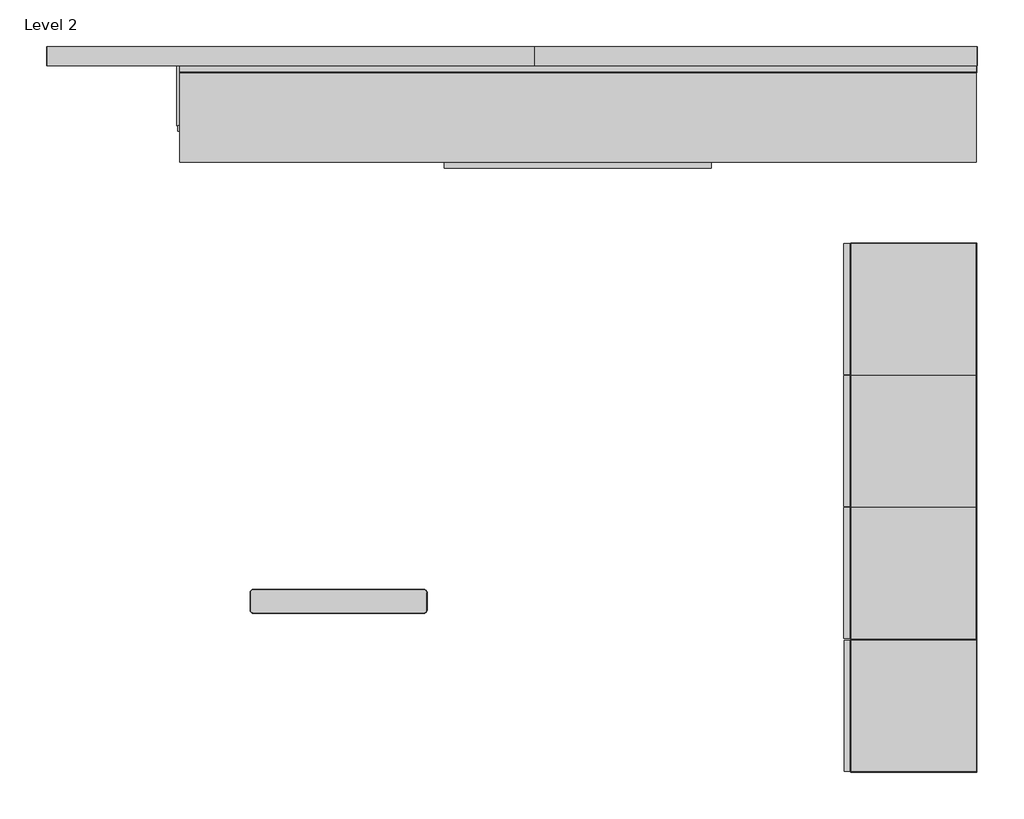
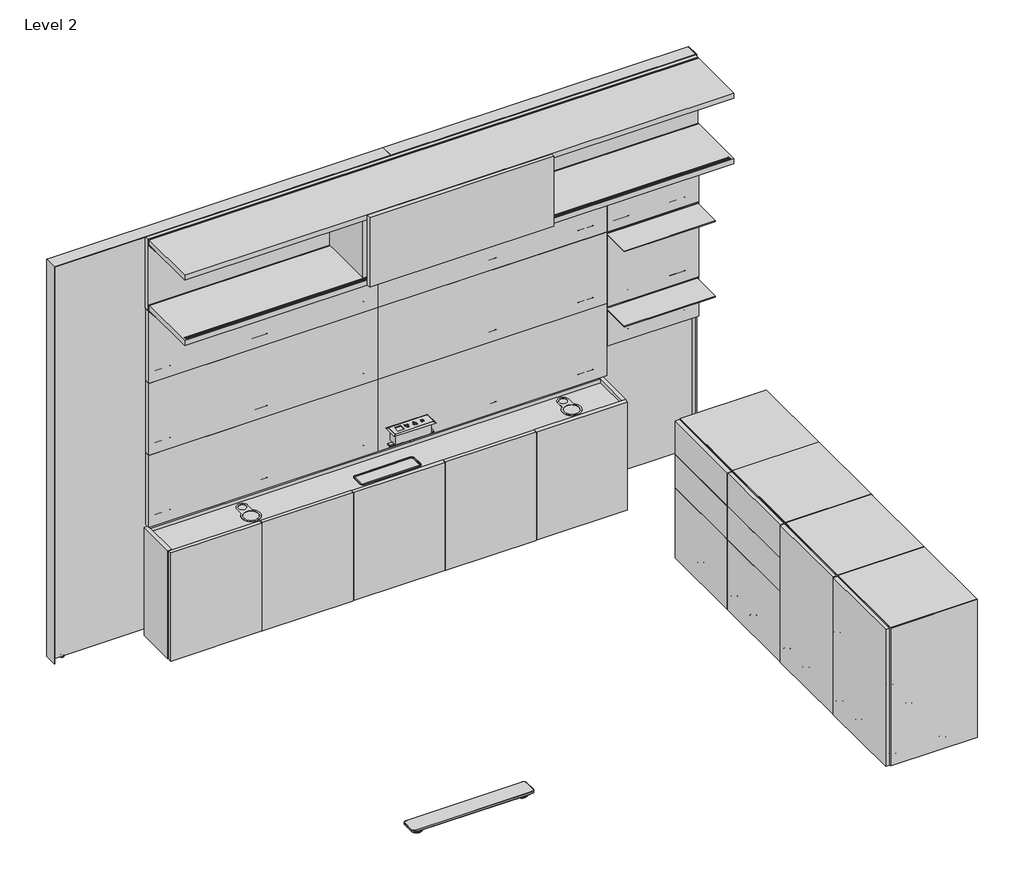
# One storey, incomplete: 26 furniture elements.
"""IFC4 building model written with IfcOpenShell, lengths in millimetres."""

from ifc_helpers import new_model, si_unit, origin, place, context, project, spatial, transform, mapped, element, save
from components import furniture_2c6be22b, furniture_26ee6ef7, furniture_32e424e9, furniture_9a9e18b9, furniture_67171f7c, furniture_72f0afe8, furniture_a181dc65, furniture_463faf28, furniture_ed4ef10b, furniture_85a4afa4, furniture_02ff0113, furniture_eb95eba2, furniture_c91bc20d, in_surface_33791ff7, t_foot_2f0a3af6

model = new_model("IFC4")

# Units and contexts
model_context = context("Model", 3, world=origin())
ifc_project = project(units=[si_unit("LENGTHUNIT", "METRE", prefix="MILLI")], contexts=[model_context])

# Site, building, storey
site = spatial("IfcSite", under=ifc_project)
building = spatial("IfcBuilding", under=site)
storey = spatial("IfcBuildingStorey", under=building, Name="Level 2", Elevation=3048.0)

# Furniture
placement = place(None, origin())
furniture_shape = furniture_2c6be22b(model_context)
element("IfcFurniture", 1, ObjectType="Geiger_GeigerOneCasegoods_Casegoods_AccessoryShelf : 17.875Wx 6.5Dx 0.375H", at=placement, inside=storey, context=model_context, shape_type="MappedRepresentation", body=[
    mapped(furniture_shape, transform((3808.9747955, 3553.4445055, 962.4822), x_axis=(1.0, 0.0, 0.0), y_axis=(0.0, 1.0, 0.0), z_axis=(0.0, 0.0, 1.0))),
])
element("IfcFurniture", 2, ObjectType="Geiger_GeigerOneCasegoods_Casegoods_AccessoryShelf : 17.875Wx 6.5Dx 0.375H", at=placement, inside=storey, context=model_context, shape_type="MappedRepresentation", body=[
    mapped(furniture_shape, transform((3808.9747955, 3553.4445055, 1359.5522485), x_axis=(1.0, 0.0, 0.0), y_axis=(0.0, 1.0, 0.0), z_axis=(0.0, 0.0, 1.0))),
])
furniture_2_shape = furniture_26ee6ef7(model_context)
element("IfcFurniture", 3, ObjectType="Geiger_GeigerOneCasegoods_OverheadStorageDoubleShelfWithSlidingDoor : Veneer Shelves Horizontal Veneer Back 108Wx 14.125Dx 14.875H", at=placement, inside=storey, context=model_context, shape_type="MappedRepresentation", body=[
    mapped(furniture_2_shape, transform((1521.6853277, 3575.628369, 1754.124), x_axis=(1.0, 0.0, 0.0), y_axis=(0.0, 1.0, 0.0), z_axis=(0.0, 0.0, 1.0))),
])
furniture_3_shape = furniture_32e424e9(model_context)
element("IfcFurniture", 4, ObjectType="Geiger_GeigerOneCasegoods_UtilityCabinetForUseWithLDeskAccepts2Legs : Vertical Veneer 90Wx 8.875Dx 22.5H", at=placement, inside=storey, context=model_context, shape_type="MappedRepresentation", body=[
    mapped(furniture_3_shape, transform((1511.5253277, 3562.8705754, 19.05), x_axis=(1.0, 0.0, 0.0), y_axis=(0.0, 1.0, 0.0), z_axis=(0.0, 0.0, 1.0))),
])
furniture_4_shape = furniture_9a9e18b9(model_context)
element("IfcFurniture", 5, ObjectType="Geiger_GeigerOneCasegoods_WallEndTrim : SingleSided 2.625Wx 0.125Dx 82.625H", at=placement, inside=storey, context=model_context, shape_type="MappedRepresentation", body=[
    mapped(furniture_4_shape, transform((4266.0853277, 3595.8705754, 38.1), x_axis=(1.0, 0.0, 0.0), y_axis=(0.0, 1.0, 0.0), z_axis=(0.0, 0.0, 1.0))),
])
element("IfcFurniture", 6, ObjectType="Geiger_GeigerOneCasegoods_WallEndTrim : SingleSided 2.625Wx 0.125Dx 82.625H", at=placement, inside=storey, context=model_context, shape_type="MappedRepresentation", body=[
    mapped(furniture_4_shape, transform((1062.5103277, 3595.8705754, 38.1), x_axis=(1.0, 0.0, 0.0), y_axis=(0.0, 1.0, 0.0), z_axis=(0.0, 0.0, 1.0))),
])
furniture_5_shape = furniture_67171f7c(model_context)
element("IfcFurniture", 7, ObjectType="Geiger_GeigerOneCasegoods_WallFrameStandardApplication : 42Wx1Dx82.5H", at=placement, inside=storey, context=model_context, shape_type="MappedRepresentation", body=[
    mapped(furniture_5_shape, transform((1064.8788498, 3624.4302055, 25.4), x_axis=(1.0, 0.0, 0.0), y_axis=(0.0, 1.0, 0.0), z_axis=(0.0, 0.0, 1.0))),
])
element("IfcFurniture", 8, ObjectType="Geiger_GeigerOneCasegoods_WallFrameStandardApplication : 42Wx1Dx82.5H", at=placement, inside=storey, context=model_context, shape_type="MappedRepresentation", body=[
    mapped(furniture_5_shape, transform((2131.6788498, 3624.4302055, 25.4), x_axis=(1.0, 0.0, 0.0), y_axis=(0.0, 1.0, 0.0), z_axis=(0.0, 0.0, 1.0))),
])
element("IfcFurniture", 9, ObjectType="Geiger_GeigerOneCasegoods_WallFrameStandardApplication : 42Wx1Dx82.5H", at=placement, inside=storey, context=model_context, shape_type="MappedRepresentation", body=[
    mapped(furniture_5_shape, transform((3200.8473719, 3624.4302055, 25.4), x_axis=(1.0, 0.0, 0.0), y_axis=(0.0, 1.0, 0.0), z_axis=(0.0, 0.0, 1.0))),
])
furniture_6_shape = furniture_72f0afe8(model_context)
element("IfcFurniture", 10, ObjectType="Geiger_GeigerOneCasegoods_WallTopTrimSingleSidedWall : 60Wx2.625Dx0.125H", at=placement, inside=storey, context=model_context, shape_type="MappedRepresentation", body=[
    mapped(furniture_6_shape, transform((2742.0853277, 3596.2080754, 2133.5746), x_axis=(1.0, 0.0, 0.0), y_axis=(0.0, 1.0, 0.0), z_axis=(0.0, 0.0, 1.0))),
])
furniture_7_shape = furniture_a181dc65(model_context)
element("IfcFurniture", 11, ObjectType="Geiger_GeigerOneCasegoods_WallTopTrimSingleSidedWall : 66Wx2.625Dx0.125H", at=placement, inside=storey, context=model_context, shape_type="MappedRepresentation", body=[
    mapped(furniture_7_shape, transform((1065.6853277, 3596.2080754, 2133.5746), x_axis=(1.0, 0.0, 0.0), y_axis=(0.0, 1.0, 0.0), z_axis=(0.0, 0.0, 1.0))),
])
furniture_8_shape = furniture_463faf28(model_context)
element("IfcFurniture", 12, ObjectType="Geiger_GeigerOneCasegoods_WallTileAcceptsTileAboveBackPainte : 18Wx 1.25Dx 15H", at=placement, inside=storey, context=model_context, shape_type="MappedRepresentation", body=[
    mapped(furniture_8_shape, transform((3809.1342393, 3564.4427055, 1365.1021485), x_axis=(1.0, 0.0, 0.0), y_axis=(0.0, 1.0, 0.0), z_axis=(0.0, 0.0, 1.0))),
])
furniture_9_shape = furniture_ed4ef10b(model_context)
element("IfcFurniture", 13, ObjectType="Geiger_GeigerOneCasegoods_WallTileAcceptsShelfandTil : 18Wx 1.25Dx 7.5H", at=placement, inside=storey, context=model_context, shape_type="MappedRepresentation", body=[
    mapped(furniture_9_shape, transform((3809.8030446, 3570.8435055, 769.5946), x_axis=(1.0, 0.0, 0.0), y_axis=(0.0, 1.0, 0.0), z_axis=(0.0, 0.0, 1.0))),
])
furniture_10_shape = furniture_85a4afa4(model_context)
element("IfcFurniture", 14, ObjectType="Geiger_GeigerOneCasegoods_WallTileAcceptsShelfandTil : 18Wx 1.25Dx 15H", at=placement, inside=storey, context=model_context, shape_type="MappedRepresentation", body=[
    mapped(furniture_10_shape, transform((3809.8030446, 3570.8435055, 976.1646485), x_axis=(1.0, 0.0, 0.0), y_axis=(0.0, 1.0, 0.0), z_axis=(0.0, 0.0, 1.0))),
])
furniture_11_shape = furniture_02ff0113(model_context)
element("IfcFurniture", 15, ObjectType="Geiger_GeigerOneCasegoods_LowStorageSingleHingedDoor : Vertical Veneer 18Wx18Dx28.75H", at=placement, inside=storey, context=model_context, shape_type="MappedRepresentation", body=[
    mapped(furniture_11_shape, transform((4266.8353277, 1585.8145706, -6.35), x_axis=(0.0, -1.0, 0.0), y_axis=(1.0, 0.0, 0.0), z_axis=(0.0, 0.0, 1.0))),
])
element("IfcFurniture", 16, ObjectType="Geiger_GeigerOneCasegoods_LowStorageSingleHingedDoor : Vertical Veneer 18Wx18Dx28.75H", at=placement, inside=storey, context=model_context, shape_type="MappedRepresentation", body=[
    mapped(furniture_11_shape, transform((4266.5853277, 2043.0145706, -6.35), x_axis=(0.0, -1.0, 0.0), y_axis=(1.0, 0.0, 0.0), z_axis=(0.0, 0.0, 1.0))),
])
furniture_12_shape = furniture_eb95eba2(model_context)
element("IfcFurniture", 17, ObjectType="Geiger_GeigerOneCasegoods_LowStorage2Box1File : Vertical Veneer 18Wx18Dx28.75H", at=placement, inside=storey, context=model_context, shape_type="MappedRepresentation", body=[
    mapped(furniture_12_shape, transform((4266.5853277, 2497.6745706, -6.35), x_axis=(0.0, -1.0, 0.0), y_axis=(1.0, 0.0, 0.0), z_axis=(0.0, 0.0, 1.0))),
])
element("IfcFurniture", 18, ObjectType="Geiger_GeigerOneCasegoods_LowStorage2Box1File : Vertical Veneer 18Wx18Dx28.75H", at=placement, inside=storey, context=model_context, shape_type="MappedRepresentation", body=[
    mapped(furniture_12_shape, transform((4266.5853277, 2952.3345706, -6.35), x_axis=(0.0, -1.0, 0.0), y_axis=(1.0, 0.0, 0.0), z_axis=(0.0, 0.0, 1.0))),
])
furniture_13_shape = furniture_c91bc20d(model_context)
element("IfcFurniture", 19, ObjectType="Geiger_GeigerOneCasegoods_WallTileAcceptsTileAboveFabric : Fabric 45Wx 1.25Dx 15H", at=placement, inside=storey, context=model_context, shape_type="MappedRepresentation", body=[
    mapped(furniture_13_shape, transform((1521.6853277, 3571.3435055, 614.124), x_axis=(1.0, 0.0, 0.0), y_axis=(0.0, 1.0, 0.0), z_axis=(0.0, 0.0, 1.0))),
])
element("IfcFurniture", 20, ObjectType="Geiger_GeigerOneCasegoods_WallTileAcceptsTileAboveFabric : Fabric 45Wx 1.25Dx 15H", at=placement, inside=storey, context=model_context, shape_type="MappedRepresentation", body=[
    mapped(furniture_13_shape, transform((1521.6853277, 3571.3435055, 994.124), x_axis=(1.0, 0.0, 0.0), y_axis=(0.0, 1.0, 0.0), z_axis=(0.0, 0.0, 1.0))),
])
element("IfcFurniture", 21, ObjectType="Geiger_GeigerOneCasegoods_WallTileAcceptsTileAboveFabric : Fabric 45Wx 1.25Dx 15H", at=placement, inside=storey, context=model_context, shape_type="MappedRepresentation", body=[
    mapped(furniture_13_shape, transform((1521.6853277, 3571.3435055, 1374.124), x_axis=(1.0, 0.0, 0.0), y_axis=(0.0, 1.0, 0.0), z_axis=(0.0, 0.0, 1.0))),
])
element("IfcFurniture", 22, ObjectType="Geiger_GeigerOneCasegoods_WallTileAcceptsTileAboveFabric : Fabric 45Wx 1.25Dx 15H", at=placement, inside=storey, context=model_context, shape_type="MappedRepresentation", body=[
    mapped(furniture_13_shape, transform((2664.6853277, 3571.3435055, 614.124), x_axis=(1.0, 0.0, 0.0), y_axis=(0.0, 1.0, 0.0), z_axis=(0.0, 0.0, 1.0))),
])
element("IfcFurniture", 23, ObjectType="Geiger_GeigerOneCasegoods_WallTileAcceptsTileAboveFabric : Fabric 45Wx 1.25Dx 15H", at=placement, inside=storey, context=model_context, shape_type="MappedRepresentation", body=[
    mapped(furniture_13_shape, transform((2664.6853277, 3571.3435055, 994.124), x_axis=(1.0, 0.0, 0.0), y_axis=(0.0, 1.0, 0.0), z_axis=(0.0, 0.0, 1.0))),
])
element("IfcFurniture", 24, ObjectType="Geiger_GeigerOneCasegoods_WallTileAcceptsTileAboveFabric : Fabric 45Wx 1.25Dx 15H", at=placement, inside=storey, context=model_context, shape_type="MappedRepresentation", body=[
    mapped(furniture_13_shape, transform((2664.6853277, 3571.3435055, 1374.124), x_axis=(1.0, 0.0, 0.0), y_axis=(0.0, 1.0, 0.0), z_axis=(0.0, 0.0, 1.0))),
])
in_surface_shape = in_surface_33791ff7(model_context)
element("IfcFurniture", 25, ObjectType="Geiger_GeigerOneCasegoods_PowerComponent2PowerOutlets1USBA1USBC : In Surface", at=placement, inside=storey, context=model_context, shape_type="MappedRepresentation", body=[
    mapped(in_surface_shape, transform((2774.9380957, 3444.6452712, 770.4856834), x_axis=(1.0, 0.0, 0.0), y_axis=(0.0, 1.0, 0.0), z_axis=(0.0, 0.0, 1.0))),
])
t_foot_shape = t_foot_2f0a3af6(model_context)
element("IfcFurniture", 26, ObjectType="Geiger_GeigerOneCasegoods_LegSupport : T Foot", at=placement, inside=storey, context=model_context, shape_type="MappedRepresentation", body=[
    mapped(t_foot_shape, transform((2068.423703, 1717.2178151, 22.3022161), x_axis=(1.0, 0.0, 0.0), y_axis=(0.0, 1.0, 0.0), z_axis=(0.0, 0.0, 1.0))),
])

save(model, "model.ifc")
